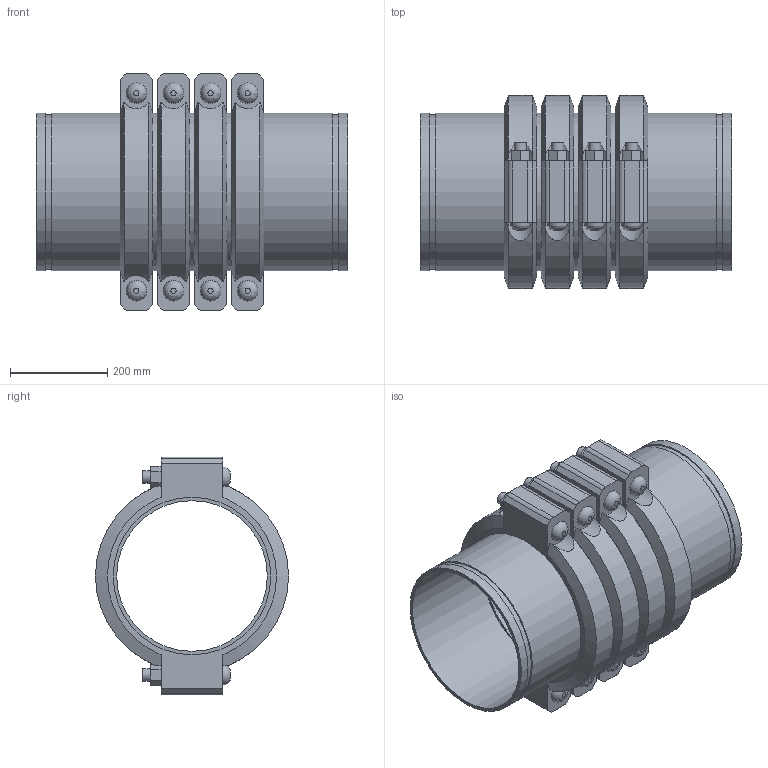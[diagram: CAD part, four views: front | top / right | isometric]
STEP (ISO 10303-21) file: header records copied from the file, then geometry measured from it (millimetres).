
FILE_DESCRIPTION(/* description */ ('VIC SS EXPANSION JOINT 4 COUPLINGS EXPANDED STYLE 155P (OGS) (POTABLE WATER) ','CAx-IF Rec.Pracs.---Representation and Presentation of Product Manufacturing Information (PMI)---4.0---2014-10-13'),/* implementation_level */ '2;1');
FILE_NAME(/* name */ 'C:\Users\kkamble\AppData\Roaming\Autodesk\ApplicationPlugins\Victaulic.Temp\A557\Victaulic_SS_Expansion Joint_Expanded_4 Couplings_Style 155P (OGS)-Potable Water_4 Coup_Expd_12 (300).stp',/* time_stamp */ '2021-07-16T16:51:48+05:00',/* author */ ('kkamble'),/* organization */ ('Victaulic'),/* preprocessor_version */ 'ST-DEVELOPER v17.2',/* originating_system */ 'Autodesk Inventor 2019',/* authorisation */ '');
FILE_SCHEMA (('AP242_MANAGED_MODEL_BASED_3D_ENGINEERING_MIM_LF { 1 0 10303 442 1 1 4 }'));
Length unit declared in the file: inch
Products named in the file (4): 155P-12.0; Nipple-12.0; Nipple-12.0_1; 077-12.0
Assembly tree (9 placements, depth 2):
  155P-12.0
    Nipple-12.0  x2
    Nipple-12.0_1  x3
    077-12.0  x4
Bounding box: 641.35 x 397 x 488.95 mm (x, y, z)
Volume: 17724508.7 mm3; surface area: 2654725.7 mm2
Topology: 9 solids, 17 shells, 304 faces, 730 edges, 512 vertices
Faces by surface type: plane 174, cylinder 106, cone 16, bspline 8
Full cylindrical faces by diameter (mm): 25.4 x16, 27.432 x8, 309.677 x5, 314.96 x4, 318.287 x10, 323.85 x23
Entity records: 3032 total; most frequent: CARTESIAN_POINT 657, DIRECTION 473, ORIENTED_EDGE 410, EDGE_CURVE 205, AXIS2_PLACEMENT_3D 192, VERTEX_POINT 146, EDGE_LOOP 111, CIRCLE 96
